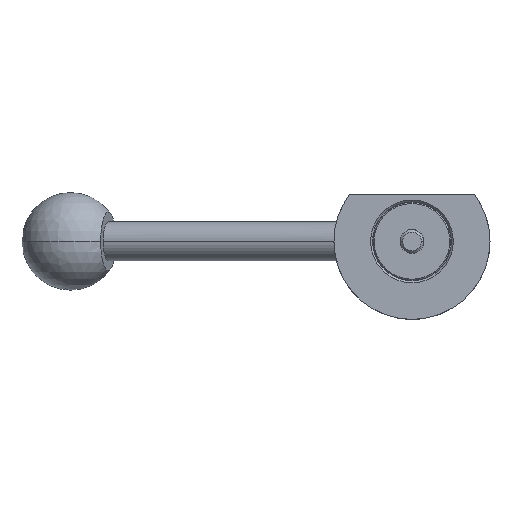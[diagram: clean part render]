
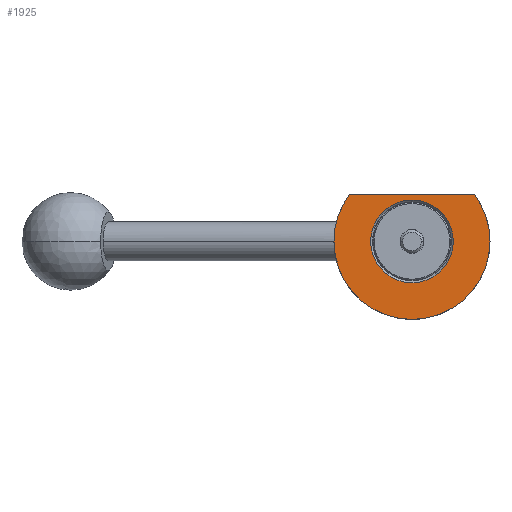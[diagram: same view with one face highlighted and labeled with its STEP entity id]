
A CAD part, front view. The second image highlights one B-rep face of the part: STEP entity #1925.
In plain terms, the highlighted planar face has unit normal (0, -1, 0).
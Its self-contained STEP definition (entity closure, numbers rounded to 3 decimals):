
#6 = ORIENTED_EDGE ( 'NONE', *, *, #645, .T. ) ;
#37 = CARTESIAN_POINT ( 'NONE',  ( 0., -10., 0. ) ) ;
#41 = DIRECTION ( 'NONE',  ( -1., 0., 0. ) ) ;
#64 = EDGE_LOOP ( 'NONE', ( #6, #1491 ) ) ;
#88 = CARTESIAN_POINT ( 'NONE',  ( 0., -10., 0. ) ) ;
#94 = CARTESIAN_POINT ( 'NONE',  ( -10.6, -10., 0. ) ) ;
#216 = DIRECTION ( 'NONE',  ( 0., 1., 0. ) ) ;
#270 = FACE_OUTER_BOUND ( 'NONE', #547, .T. ) ;
#324 = VERTEX_POINT ( 'NONE', #1418 ) ;
#381 = CARTESIAN_POINT ( 'NONE',  ( -10.6, -10., 11.999 ) ) ;
#484 = ORIENTED_EDGE ( 'NONE', *, *, #702, .F. ) ;
#547 = EDGE_LOOP ( 'NONE', ( #484, #1993, #2038, #701 ) ) ;
#549 = VERTEX_POINT ( 'NONE', #94 ) ;
#551 = CARTESIAN_POINT ( 'NONE',  ( -20., -10., 0. ) ) ;
#552 = DIRECTION ( 'NONE',  ( 0., -1., 0. ) ) ;
#587 = CARTESIAN_POINT ( 'NONE',  ( 0., -10., 0. ) ) ;
#645 = EDGE_CURVE ( 'NONE', #1997, #549, #1884, .T. ) ;
#656 = AXIS2_PLACEMENT_3D ( 'NONE', #1758, #1266, #1433 ) ;
#657 = CIRCLE ( 'NONE', #848, 10.6 ) ;
#671 = DIRECTION ( 'NONE',  ( 0., 1., 0. ) ) ;
#701 = ORIENTED_EDGE ( 'NONE', *, *, #1210, .F. ) ;
#702 = EDGE_CURVE ( 'NONE', #1962, #324, #991, .T. ) ;
#757 = CIRCLE ( 'NONE', #656, 20. ) ;
#794 = AXIS2_PLACEMENT_3D ( 'NONE', #852, #216, #41 ) ;
#848 = AXIS2_PLACEMENT_3D ( 'NONE', #37, #671, #1000 ) ;
#852 = CARTESIAN_POINT ( 'NONE',  ( 0., -10., 0. ) ) ;
#916 = EDGE_CURVE ( 'NONE', #1479, #1424, #757, .T. ) ;
#991 = CIRCLE ( 'NONE', #1214, 20. ) ;
#1000 = DIRECTION ( 'NONE',  ( -1., 0., 0. ) ) ;
#1009 = DIRECTION ( 'NONE',  ( 0., 1., 0. ) ) ;
#1029 = EDGE_CURVE ( 'NONE', #1962, #1424, #1163, .T. ) ;
#1055 = AXIS2_PLACEMENT_3D ( 'NONE', #1370, #552, #1813 ) ;
#1071 = DIRECTION ( 'NONE',  ( -1., 0., 0. ) ) ;
#1163 = LINE ( 'NONE', #381, #1381 ) ;
#1182 = PLANE ( 'NONE',  #1055 ) ;
#1192 = FACE_BOUND ( 'NONE', #64, .T. ) ;
#1210 = EDGE_CURVE ( 'NONE', #324, #1479, #1888, .T. ) ;
#1211 = DIRECTION ( 'NONE',  ( 0., 1., 0. ) ) ;
#1214 = AXIS2_PLACEMENT_3D ( 'NONE', #587, #1211, #1071 ) ;
#1266 = DIRECTION ( 'NONE',  ( 0., 1., 0. ) ) ;
#1344 = EDGE_CURVE ( 'NONE', #549, #1997, #657, .T. ) ;
#1370 = CARTESIAN_POINT ( 'NONE',  ( -10.6, -10., 0. ) ) ;
#1381 = VECTOR ( 'NONE', #1947, 1000. ) ;
#1418 = CARTESIAN_POINT ( 'NONE',  ( 20., -10., 0. ) ) ;
#1424 = VERTEX_POINT ( 'NONE', #1991 ) ;
#1433 = DIRECTION ( 'NONE',  ( -1., 0., 0. ) ) ;
#1479 = VERTEX_POINT ( 'NONE', #551 ) ;
#1484 = DIRECTION ( 'NONE',  ( -1., 0., 0. ) ) ;
#1491 = ORIENTED_EDGE ( 'NONE', *, *, #1344, .T. ) ;
#1721 = CARTESIAN_POINT ( 'NONE',  ( 16.001, -10., 11.999 ) ) ;
#1758 = CARTESIAN_POINT ( 'NONE',  ( 0., -10., 0. ) ) ;
#1813 = DIRECTION ( 'NONE',  ( 1., 0., 0. ) ) ;
#1876 = CARTESIAN_POINT ( 'NONE',  ( 10.6, -10., 0. ) ) ;
#1884 = CIRCLE ( 'NONE', #1973, 10.6 ) ;
#1888 = CIRCLE ( 'NONE', #794, 20. ) ;
#1925 = ADVANCED_FACE ( 'NONE', ( #1192, #270 ), #1182, .T. ) ;
#1947 = DIRECTION ( 'NONE',  ( -1., 0., 0. ) ) ;
#1962 = VERTEX_POINT ( 'NONE', #1721 ) ;
#1973 = AXIS2_PLACEMENT_3D ( 'NONE', #88, #1009, #1484 ) ;
#1991 = CARTESIAN_POINT ( 'NONE',  ( -16.001, -10., 11.999 ) ) ;
#1993 = ORIENTED_EDGE ( 'NONE', *, *, #1029, .T. ) ;
#1997 = VERTEX_POINT ( 'NONE', #1876 ) ;
#2038 = ORIENTED_EDGE ( 'NONE', *, *, #916, .F. ) ;
